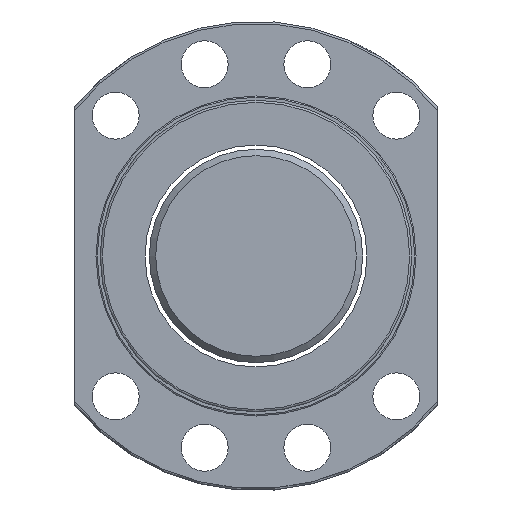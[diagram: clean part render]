
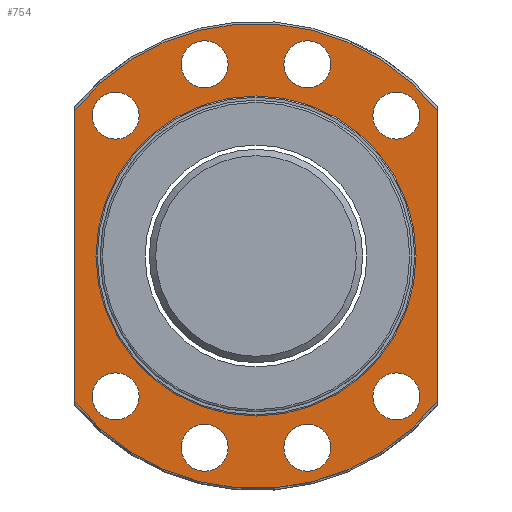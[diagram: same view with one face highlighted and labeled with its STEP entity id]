
A CAD part, left-side view. The second image highlights one B-rep face of the part: STEP entity #754.
In plain terms, the highlighted planar face has unit normal (-1, 0, 0).
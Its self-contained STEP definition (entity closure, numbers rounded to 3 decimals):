
#85=LINE('',#1216,#95);
#87=LINE('',#1249,#97);
#95=VECTOR('',#957,1000.);
#97=VECTOR('',#961,1000.);
#131=PLANE('',#864);
#203=ORIENTED_EDGE('',*,*,#341,.F.);
#204=ORIENTED_EDGE('',*,*,#343,.F.);
#205=ORIENTED_EDGE('',*,*,#345,.F.);
#206=ORIENTED_EDGE('',*,*,#347,.F.);
#207=ORIENTED_EDGE('',*,*,#349,.F.);
#208=ORIENTED_EDGE('',*,*,#351,.F.);
#209=ORIENTED_EDGE('',*,*,#353,.F.);
#210=ORIENTED_EDGE('',*,*,#355,.F.);
#211=ORIENTED_EDGE('',*,*,#358,.T.);
#212=ORIENTED_EDGE('',*,*,#330,.F.);
#213=ORIENTED_EDGE('',*,*,#366,.F.);
#214=ORIENTED_EDGE('',*,*,#337,.T.);
#215=ORIENTED_EDGE('',*,*,#367,.F.);
#330=EDGE_CURVE('',#416,#417,#85,.T.);
#337=EDGE_CURVE('',#422,#421,#87,.T.);
#341=EDGE_CURVE('',#425,#425,#477,.T.);
#343=EDGE_CURVE('',#427,#427,#479,.T.);
#345=EDGE_CURVE('',#429,#429,#481,.T.);
#347=EDGE_CURVE('',#431,#431,#483,.T.);
#349=EDGE_CURVE('',#433,#433,#485,.T.);
#351=EDGE_CURVE('',#435,#435,#487,.T.);
#353=EDGE_CURVE('',#437,#437,#489,.T.);
#355=EDGE_CURVE('',#439,#439,#491,.T.);
#358=EDGE_CURVE('',#442,#442,#494,.T.);
#366=EDGE_CURVE('',#422,#416,#499,.T.);
#367=EDGE_CURVE('',#417,#421,#500,.T.);
#416=VERTEX_POINT('',#1215);
#417=VERTEX_POINT('',#1217);
#421=VERTEX_POINT('',#1248);
#422=VERTEX_POINT('',#1250);
#425=VERTEX_POINT('',#1262);
#427=VERTEX_POINT('',#1267);
#429=VERTEX_POINT('',#1272);
#431=VERTEX_POINT('',#1277);
#433=VERTEX_POINT('',#1282);
#435=VERTEX_POINT('',#1287);
#437=VERTEX_POINT('',#1292);
#439=VERTEX_POINT('',#1297);
#442=VERTEX_POINT('',#1305);
#477=CIRCLE('',#830,5.5);
#479=CIRCLE('',#833,5.5);
#481=CIRCLE('',#836,5.5);
#483=CIRCLE('',#839,5.5);
#485=CIRCLE('',#842,5.5);
#487=CIRCLE('',#845,5.5);
#489=CIRCLE('',#848,5.5);
#491=CIRCLE('',#851,5.5);
#494=CIRCLE('',#856,37.5);
#499=CIRCLE('',#865,54.5);
#500=CIRCLE('',#866,54.5);
#560=EDGE_LOOP('',(#203));
#561=EDGE_LOOP('',(#204));
#562=EDGE_LOOP('',(#205));
#563=EDGE_LOOP('',(#206));
#564=EDGE_LOOP('',(#207));
#565=EDGE_LOOP('',(#208));
#566=EDGE_LOOP('',(#209));
#567=EDGE_LOOP('',(#210));
#568=EDGE_LOOP('',(#211));
#569=EDGE_LOOP('',(#212,#213,#214,#215));
#664=FACE_BOUND('',#560,.T.);
#665=FACE_BOUND('',#561,.T.);
#666=FACE_BOUND('',#562,.T.);
#667=FACE_BOUND('',#563,.T.);
#668=FACE_BOUND('',#564,.T.);
#669=FACE_BOUND('',#565,.T.);
#670=FACE_BOUND('',#566,.T.);
#671=FACE_BOUND('',#567,.T.);
#672=FACE_BOUND('',#568,.T.);
#673=FACE_BOUND('',#569,.T.);
#754=ADVANCED_FACE('',(#664,#665,#666,#667,#668,#669,#670,#671,#672,#673),
#131,.T.);
#830=AXIS2_PLACEMENT_3D('',#1261,#967,#968);
#833=AXIS2_PLACEMENT_3D('',#1266,#973,#974);
#836=AXIS2_PLACEMENT_3D('',#1271,#979,#980);
#839=AXIS2_PLACEMENT_3D('',#1276,#985,#986);
#842=AXIS2_PLACEMENT_3D('',#1281,#991,#992);
#845=AXIS2_PLACEMENT_3D('',#1286,#997,#998);
#848=AXIS2_PLACEMENT_3D('',#1291,#1003,#1004);
#851=AXIS2_PLACEMENT_3D('',#1296,#1009,#1010);
#856=AXIS2_PLACEMENT_3D('',#1304,#1019,#1020);
#864=AXIS2_PLACEMENT_3D('',#1326,#1037,#1038);
#865=AXIS2_PLACEMENT_3D('',#1327,#1039,#1040);
#866=AXIS2_PLACEMENT_3D('',#1328,#1041,#1042);
#957=DIRECTION('',(0.,0.,1.));
#961=DIRECTION('',(0.,0.,1.));
#967=DIRECTION('',(-1.,0.,0.));
#968=DIRECTION('',(0.,-1.,0.));
#973=DIRECTION('',(-1.,0.,0.));
#974=DIRECTION('',(0.,-1.,0.));
#979=DIRECTION('',(-1.,0.,0.));
#980=DIRECTION('',(0.,-1.,0.));
#985=DIRECTION('',(-1.,0.,0.));
#986=DIRECTION('',(0.,-1.,0.));
#991=DIRECTION('',(-1.,0.,0.));
#992=DIRECTION('',(0.,-1.,0.));
#997=DIRECTION('',(-1.,0.,0.));
#998=DIRECTION('',(0.,-1.,0.));
#1003=DIRECTION('',(-1.,0.,0.));
#1004=DIRECTION('',(0.,-1.,0.));
#1009=DIRECTION('',(-1.,0.,0.));
#1010=DIRECTION('',(0.,-1.,0.));
#1019=DIRECTION('',(1.,0.,0.));
#1020=DIRECTION('',(0.,1.,0.));
#1037=DIRECTION('',(-1.,0.,0.));
#1038=DIRECTION('',(0.,-1.,0.));
#1039=DIRECTION('',(1.,0.,0.));
#1040=DIRECTION('',(0.,1.,0.));
#1041=DIRECTION('',(1.,0.,0.));
#1042=DIRECTION('',(0.,1.,0.));
#1215=CARTESIAN_POINT('',(-35.,42.5,-34.117));
#1216=CARTESIAN_POINT('',(-35.,42.5,-81.808));
#1217=CARTESIAN_POINT('',(-35.,42.5,34.117));
#1248=CARTESIAN_POINT('',(-35.,-42.5,34.117));
#1249=CARTESIAN_POINT('',(-35.,-42.5,-60.076));
#1250=CARTESIAN_POINT('',(-35.,-42.5,-34.117));
#1261=CARTESIAN_POINT('',(-35.,32.88,-32.881));
#1262=CARTESIAN_POINT('',(-35.,27.38,-32.881));
#1266=CARTESIAN_POINT('',(-35.,-32.881,-32.881));
#1267=CARTESIAN_POINT('',(-35.,-38.381,-32.881));
#1271=CARTESIAN_POINT('',(-35.,32.88,32.881));
#1272=CARTESIAN_POINT('',(-35.,27.38,32.881));
#1276=CARTESIAN_POINT('',(-35.,-32.881,32.881));
#1277=CARTESIAN_POINT('',(-35.,-38.381,32.881));
#1281=CARTESIAN_POINT('',(-35.,12.035,-44.916));
#1282=CARTESIAN_POINT('',(-35.,6.535,-44.916));
#1286=CARTESIAN_POINT('',(-35.,-12.035,-44.916));
#1287=CARTESIAN_POINT('',(-35.,-17.535,-44.916));
#1291=CARTESIAN_POINT('',(-35.,-12.035,44.916));
#1292=CARTESIAN_POINT('',(-35.,-17.535,44.916));
#1296=CARTESIAN_POINT('',(-35.,12.035,44.916));
#1297=CARTESIAN_POINT('',(-35.,6.535,44.916));
#1304=CARTESIAN_POINT('',(-35.,0.,0.));
#1305=CARTESIAN_POINT('',(-35.,37.5,0.));
#1326=CARTESIAN_POINT('',(-35.,46.,0.));
#1327=CARTESIAN_POINT('',(-35.,0.,0.));
#1328=CARTESIAN_POINT('',(-35.,0.,0.));
